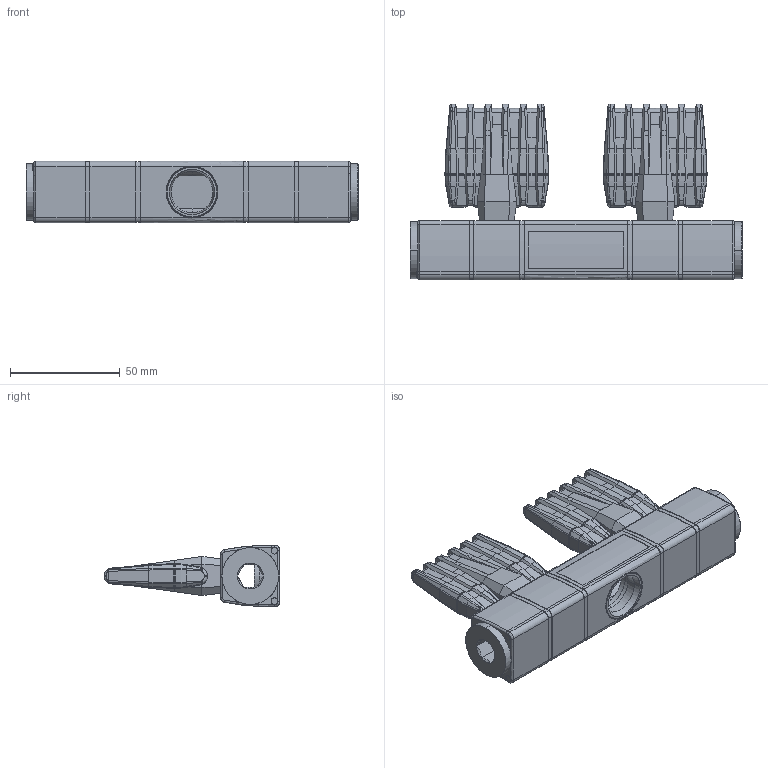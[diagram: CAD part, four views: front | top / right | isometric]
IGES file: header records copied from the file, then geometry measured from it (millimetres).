
Start section: SolidWorks IGES file using analytic representation for surfaces
Global section: file name: G:\SILVENT AB\ENGINEERING\Drawings\Övrigt\IGES\Silvent 304 Z+.IGS; native system: SolidWorks 2011; preprocessor: SolidWorks 2011; author: r.tibell; date: 130418.135127; units: millimetre
Bounding box: 151 x 80 x 28.01 mm (x, y, z)
Surface area: 35677.2 mm2 (no closed solid volume)
Topology: 0 solids, 0 shells, 1043 faces, 7581 edges, 7581 vertices
Faces by surface type: bspline 585, revolution 458
